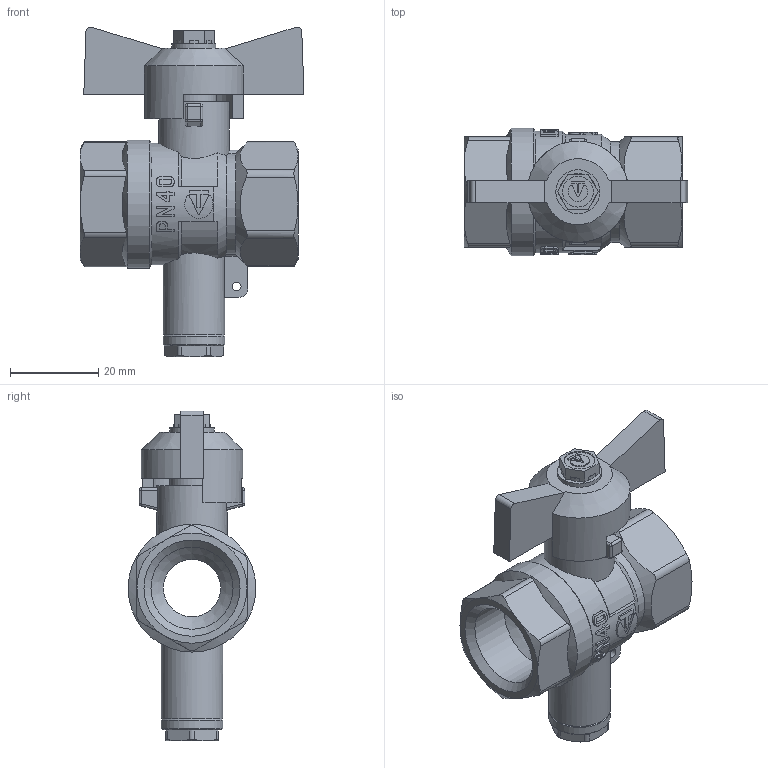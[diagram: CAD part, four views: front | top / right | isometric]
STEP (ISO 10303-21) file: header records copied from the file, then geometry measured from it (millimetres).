
FILE_DESCRIPTION(('STEP AP203'), '1');
FILE_NAME('VT.128.N.04', '', ('UNSPECIFIED'), ('UNSPECIFIED'), 'C3D Converter', 'C3D Toolkit', '');
FILE_SCHEMA(('CONFIG_CONTROL_DESIGN'));
Length unit declared in the file: millimetre
Bounding box: 50.85 x 29 x 74.92 mm (x, y, z)
Volume: 29444.8 mm3; surface area: 12096.5 mm2
Topology: 1 solids, 1 shells, 365 faces, 955 edges, 611 vertices
Faces by surface type: plane 194, cylinder 129, cone 34, sphere 4, bspline 4
Full cylindrical faces by diameter (mm): 2 x1, 7 x1, 10 x1, 10.2 x1, 13 x1, 14 x2, 16 x1, 18.632 x2, 27.6 x1, 29 x1
Entity records: 15129 total; most frequent: CARTESIAN_POINT 6478, ORIENTED_EDGE 1854, DIRECTION 1683, EDGE_CURVE 927, AXIS2_PLACEMENT_3D 614, VERTEX_POINT 611, LINE 455, VECTOR 455
